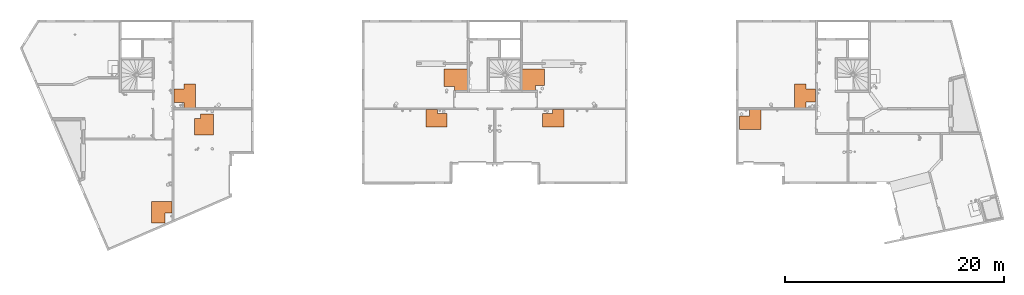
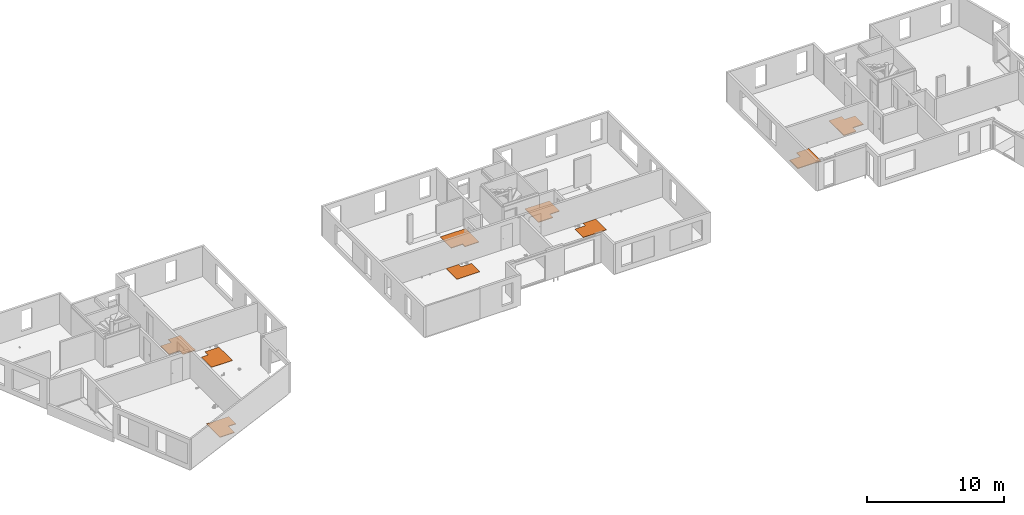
# One storey, part 19 of 24: 9 proxies.
"""IFC2X3 building model written with IfcOpenShell, lengths in centimetres."""

from ifc_helpers import new_model, entity, si_unit, converted_unit, derived_unit, direction, frame, origin, place, context, subcontext, project, spatial, polyline, outline, extrude, source, transform, mapped, material, type_object, type_shapes, element, save


model = new_model("IFC2X3")

# Units and contexts
model_context = context("Model", 3, precision=0.001, world=origin(), true_north=direction((6.12303176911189e-17, 1.0)))
body_context = subcontext(model_context, "Body", "Model", "MODEL_VIEW")
ifc_project = project(units=[si_unit("LENGTHUNIT", "METRE", prefix="CENTI"), si_unit("AREAUNIT", "SQUARE_METRE"), si_unit("VOLUMEUNIT", "CUBIC_METRE"), converted_unit("PLANEANGLEUNIT", "DEGREE", entity("IfcRatioMeasure", 0.0174532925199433), si_unit("PLANEANGLEUNIT", "RADIAN"), dimensions=[0, 0, 0, 0, 0, 0, 0]), si_unit("MASSUNIT", "GRAM", prefix="KILO"), derived_unit("MASSDENSITYUNIT", [(si_unit("MASSUNIT", "GRAM", prefix="KILO"), 1), (si_unit("LENGTHUNIT", "METRE"), -3)]), si_unit("TIMEUNIT", "SECOND"), si_unit("FREQUENCYUNIT", "HERTZ"), si_unit("THERMODYNAMICTEMPERATUREUNIT", "DEGREE_CELSIUS"), derived_unit("THERMALTRANSMITTANCEUNIT", [(si_unit("MASSUNIT", "GRAM", prefix="KILO"), 1), (si_unit("THERMODYNAMICTEMPERATUREUNIT", "KELVIN"), -1), (si_unit("TIMEUNIT", "SECOND"), -3)]), derived_unit("VOLUMETRICFLOWRATEUNIT", [(si_unit("LENGTHUNIT", "METRE"), 3), (si_unit("TIMEUNIT", "SECOND"), -1)]), si_unit("ELECTRICCURRENTUNIT", "AMPERE"), si_unit("ELECTRICVOLTAGEUNIT", "VOLT"), si_unit("POWERUNIT", "WATT"), si_unit("FORCEUNIT", "NEWTON"), si_unit("ILLUMINANCEUNIT", "LUX"), si_unit("LUMINOUSFLUXUNIT", "LUMEN"), si_unit("LUMINOUSINTENSITYUNIT", "CANDELA"), derived_unit("USERDEFINED", [(si_unit("MASSUNIT", "GRAM", prefix="KILO"), -1), (si_unit("LENGTHUNIT", "METRE"), -2), (si_unit("TIMEUNIT", "SECOND"), 3), (si_unit("LUMINOUSFLUXUNIT", "LUMEN"), 1)]), derived_unit("LINEARVELOCITYUNIT", [(si_unit("LENGTHUNIT", "METRE"), 1), (si_unit("TIMEUNIT", "SECOND"), -1)]), si_unit("PRESSUREUNIT", "PASCAL"), derived_unit("USERDEFINED", [(si_unit("LENGTHUNIT", "METRE"), -2), (si_unit("MASSUNIT", "GRAM", prefix="KILO"), 1), (si_unit("TIMEUNIT", "SECOND"), -2)])], contexts=[model_context])

# Site, building, storey
site_placement = place(None, origin())
site = spatial("IfcSite", under=ifc_project, at=site_placement, Name="Default", CompositionType="ELEMENT")
building_placement = place(site_placement, origin())
building = spatial("IfcBuilding", under=site, at=building_placement, Name="CAGE 03", CompositionType="ELEMENT")
storey_placement = place(building_placement, frame((0.0, 0.0, 1150.0)))
storey = spatial("IfcBuildingStorey", under=building, at=storey_placement, Name="R+4", CompositionType="ELEMENT", Elevation=1150.0)

# Proxies
ifc_material = material(Name="BBGO_Résa")
building_element_proxy_type_1 = type_object("IfcBuildingElementProxyType", Name="Décaissé", PredefinedType="NOTDEFINED", material=ifc_material)
shared_shape_1 = source(origin(), body_context, "Body", "SweptSolid", [
    extrude(outline(polyline([(-84.0, -100.0), (103.0, -100.0), (103.0, 95.0), (-19.0, 95.0), (-19.0, 5.0), (-84.0, 5.0), (-84.0, -100.0)])), frame((4050.36582014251, 3537.66066607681, 1144.0), z_axis=(0.0, 0.0, 1.0), x_axis=(-1.0, 0.0, 0.0)), (0.0, 0.0, 1.0), 5.99999999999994),
])
type_shapes(building_element_proxy_type_1, [shared_shape_1])
proxy_1_placement = place(storey_placement, frame((0.0, 0.0, -1150.0)))
element("IfcBuildingElementProxy", 1, at=proxy_1_placement, inside=storey, type_object=building_element_proxy_type_1, material=ifc_material, Name="Décaissé6:Décaissé", ObjectType="Décaissé", context=body_context, shape_type="MappedRepresentation", body=[
    mapped(shared_shape_1, transform((0.0, 0.0, 0.0), scale=1.0)),
])
building_element_proxy_type_2 = type_object("IfcBuildingElementProxyType", Name="Décaissé", PredefinedType="NOTDEFINED", material=ifc_material)
shared_shape_2 = source(origin(), body_context, "Body", "SweptSolid", [
    extrude(outline(polyline([(3.75000000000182, -62.4999999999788), (93.7500000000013, -62.4999999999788), (93.7499999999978, 59.5000000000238), (3.7499999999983, 59.5000000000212), (3.74999999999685, 109.49999999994), (-101.250000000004, 109.499999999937), (-101.249999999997, -106.499999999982), (3.75000000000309, -106.499999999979), (3.75000000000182, -62.4999999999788)])), frame((4246.11582014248, 4602.16066607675, 1144.0), z_axis=(0.0, 0.0, 1.0), x_axis=(-1.0, 0.0, 0.0)), (0.0, 0.0, 1.0), 5.99999999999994),
])
type_shapes(building_element_proxy_type_2, [shared_shape_2])
proxy_2_placement = place(storey_placement, frame((0.0, 0.0, -1150.0)))
element("IfcBuildingElementProxy", 2, at=proxy_2_placement, inside=storey, type_object=building_element_proxy_type_2, material=ifc_material, Name="Décaissé14:Décaissé", ObjectType="Décaissé", context=body_context, shape_type="MappedRepresentation", body=[
    mapped(shared_shape_2, transform((0.0, 0.0, 0.0), scale=1.0)),
])
building_element_proxy_type_3 = type_object("IfcBuildingElementProxyType", Name="Décaissé", PredefinedType="NOTDEFINED", material=ifc_material)
shared_shape_3 = source(origin(), body_context, "Body", "SweptSolid", [
    extrude(outline(polyline([(-98.3333333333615, -80.0), (21.6666666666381, -80.0), (21.6666666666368, -35.0), (76.6666666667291, -35.0), (76.6666666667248, 115.0), (-98.3333333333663, 115.0), (-98.3333333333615, -80.0)])), frame((4416.53248680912, 4357.66066607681, 1144.0), z_axis=(0.0, 0.0, 1.0), x_axis=(-1.0, 0.0, 0.0)), (0.0, 0.0, 1.0), 5.99999999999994),
])
type_shapes(building_element_proxy_type_3, [shared_shape_3])
proxy_3_placement = place(storey_placement, frame((0.0, 0.0, -1150.0)))
element("IfcBuildingElementProxy", 3, at=proxy_3_placement, inside=storey, type_object=building_element_proxy_type_3, material=ifc_material, Name="Décaissé17:Décaissé", ObjectType="Décaissé", context=body_context, shape_type="MappedRepresentation", body=[
    mapped(shared_shape_3, transform((0.0, 0.0, 0.0), scale=1.0)),
])
building_element_proxy_type_4 = type_object("IfcBuildingElementProxyType", Name="Décaissé", PredefinedType="NOTDEFINED", material=ifc_material)
shared_shape_4 = source(origin(), body_context, "Body", "SweptSolid", [
    extrude(outline(polyline([(-112.0, -118.333333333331), (104.0, -118.333333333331), (104.0, 41.6666666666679), (8.0, 41.6666666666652), (8.0, 76.6666666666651), (-112.0, 76.6666666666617), (-112.0, -118.333333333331)])), frame((6719.36582014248, 4727.32733274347, 1144.0), z_axis=(0.0, 0.0, 1.0), x_axis=(-1.0, 0.0, 0.0)), (0.0, 0.0, 1.0), 5.99999999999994),
])
type_shapes(building_element_proxy_type_4, [shared_shape_4])
proxy_4_placement = place(storey_placement, frame((0.0, 0.0, -1150.0)))
element("IfcBuildingElementProxy", 4, at=proxy_4_placement, inside=storey, type_object=building_element_proxy_type_4, material=ifc_material, Name="Décaissé19:Décaissé", ObjectType="Décaissé", context=body_context, shape_type="MappedRepresentation", body=[
    mapped(shared_shape_4, transform((0.0, 0.0, 0.0), scale=1.0)),
])
building_element_proxy_type_5 = type_object("IfcBuildingElementProxyType", Name="Décaissé", PredefinedType="NOTDEFINED", material=ifc_material)
shared_shape_5 = source(origin(), body_context, "Body", "SweptSolid", [
    extrude(outline(polyline([(-5.0, -64.0), (100.0, -64.0), (100.0, 93.0), (-95.0, 93.0), (-95.0, -29.0), (-5.0, -29.0), (-5.0, -64.0)])), frame((6550.86582014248, 4410.6606660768, 1144.0), z_axis=(0.0, 0.0, 1.0), x_axis=(-1.0, 0.0, 0.0)), (0.0, 0.0, 1.0), 5.99999999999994),
])
type_shapes(building_element_proxy_type_5, [shared_shape_5])
proxy_5_placement = place(storey_placement, frame((0.0, 0.0, -1150.0)))
element("IfcBuildingElementProxy", 5, at=proxy_5_placement, inside=storey, type_object=building_element_proxy_type_5, material=ifc_material, Name="Décaissé25:Décaissé", ObjectType="Décaissé", context=body_context, shape_type="MappedRepresentation", body=[
    mapped(shared_shape_5, transform((0.0, 0.0, 0.0), scale=1.0)),
])
building_element_proxy_type_6 = type_object("IfcBuildingElementProxyType", Name="Décaissé", PredefinedType="NOTDEFINED", material=ifc_material)
shared_shape_6 = source(origin(), body_context, "Body", "SweptSolid", [
    extrude(outline(polyline([(-64.0, 5.0), (-64.0, -100.0), (93.0, -100.0), (93.0, 95.0), (-29.0, 95.0), (-29.0, 5.0), (-64.0, 5.0)])), frame((7611.86582014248, 4410.6606660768, 1144.0), z_axis=(0.0, 0.0, -1.0), x_axis=(0.0, -1.0, 0.0)), (0.0, 0.0, -1.0), 5.99999999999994),
])
type_shapes(building_element_proxy_type_6, [shared_shape_6])
proxy_6_placement = place(storey_placement, frame((0.0, 0.0, -1150.0)))
element("IfcBuildingElementProxy", 6, at=proxy_6_placement, inside=storey, type_object=building_element_proxy_type_6, material=ifc_material, Name="Décaissé26:Décaissé", ObjectType="Décaissé", context=body_context, shape_type="MappedRepresentation", body=[
    mapped(shared_shape_6, transform((0.0, 0.0, 0.0), scale=1.0)),
])
building_element_proxy_type_7 = type_object("IfcBuildingElementProxyType", Name="Décaissé", PredefinedType="NOTDEFINED", material=ifc_material)
shared_shape_7 = source(origin(), body_context, "Body", "SweptSolid", [
    extrude(outline(polyline([(-115.0, -108.666666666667), (80.0, -108.666666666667), (80.0, 13.3333333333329), (35.0, 13.3333333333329), (35.0, 95.3333333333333), (-115.0, 95.3333333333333), (-115.0, -108.666666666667)])), frame((7440.03248680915, 4730.6606660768, 1144.0), z_axis=(0.0, 0.0, 1.0), x_axis=(0.0, -1.0, 0.0)), (0.0, 0.0, 1.0), 5.99999999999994),
])
type_shapes(building_element_proxy_type_7, [shared_shape_7])
proxy_7_placement = place(storey_placement, frame((0.0, 0.0, -1150.0)))
element("IfcBuildingElementProxy", 7, at=proxy_7_placement, inside=storey, type_object=building_element_proxy_type_7, material=ifc_material, Name="Décaissé27:Décaissé", ObjectType="Décaissé", context=body_context, shape_type="MappedRepresentation", body=[
    mapped(shared_shape_7, transform((0.0, 0.0, 0.0), scale=1.0)),
])
building_element_proxy_type_8 = type_object("IfcBuildingElementProxyType", Name="Décaissé", PredefinedType="NOTDEFINED", material=ifc_material)
shared_shape_8 = source(origin(), body_context, "Body", "SweptSolid", [
    extrude(outline(polyline([(63.0, -3.74980466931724), (106.0, -3.74980466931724), (106.0, 101.250195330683), (-110.0, 101.250195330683), (-110.0, -3.75058599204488), (-59.0, -3.75058599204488), (-59.0, -93.7498046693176), (63.0, -93.7498046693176), (63.0, -3.74980466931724)])), frame((9916.61601547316, 4602.66066607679, 1144.0), z_axis=(0.0, 0.0, 1.0), x_axis=(0.0, 1.0, 0.0)), (0.0, 0.0, 1.0), 5.99999999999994),
])
type_shapes(building_element_proxy_type_8, [shared_shape_8])
proxy_8_placement = place(storey_placement, frame((0.0, 0.0, -1150.0)))
element("IfcBuildingElementProxy", 8, at=proxy_8_placement, inside=storey, type_object=building_element_proxy_type_8, material=ifc_material, Name="Décaissé28:Décaissé", ObjectType="Décaissé", context=body_context, shape_type="MappedRepresentation", body=[
    mapped(shared_shape_8, transform((0.0, 0.0, 0.0), scale=1.0)),
])
building_element_proxy_type_9 = type_object("IfcBuildingElementProxyType", Name="Décaissé", PredefinedType="NOTDEFINED", material=ifc_material)
shared_shape_9 = source(origin(), body_context, "Body", "SweptSolid", [
    extrude(outline(polyline([(-78.6666666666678, 5.0), (-78.6666666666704, -100.0), (100.333333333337, -100.0), (100.333333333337, 95.0), (-21.6666666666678, 95.0), (-21.6666666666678, 5.0), (-78.6666666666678, 5.0)])), frame((9409.36582014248, 4395.99399941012, 1144.0), z_axis=(0.0, 0.0, -1.0), x_axis=(0.0, -1.0, 0.0)), (0.0, 0.0, -1.0), 5.99999999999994),
])
type_shapes(building_element_proxy_type_9, [shared_shape_9])
proxy_9_placement = place(storey_placement, frame((0.0, 0.0, -1150.0)))
element("IfcBuildingElementProxy", 9, at=proxy_9_placement, inside=storey, type_object=building_element_proxy_type_9, material=ifc_material, Name="Décaissé36:Décaissé", ObjectType="Décaissé", context=body_context, shape_type="MappedRepresentation", body=[
    mapped(shared_shape_9, transform((0.0, 0.0, 0.0), scale=1.0)),
])

save(model, "model.ifc")
